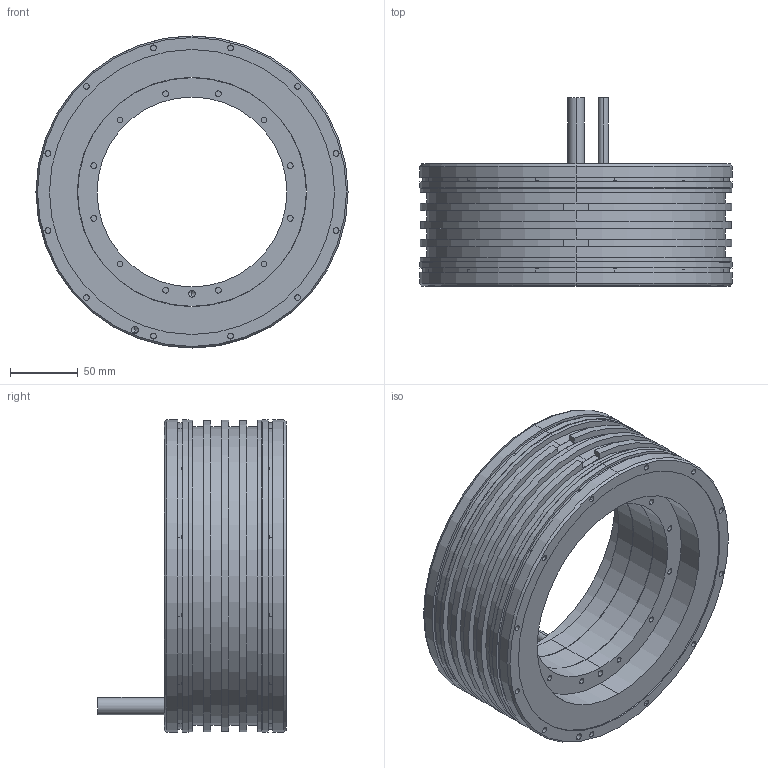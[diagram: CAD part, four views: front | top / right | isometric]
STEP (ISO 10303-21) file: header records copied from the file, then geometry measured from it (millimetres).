
FILE_DESCRIPTION (( 'STEP AP203' ), '1' );
FILE_NAME ('TM-2-45.STEP', '2020-10-20T05:44:14', ( '' ), ( '' ), 'SwSTEP 2.0', 'SolidWorks 2015', '' );
FILE_SCHEMA (( 'CONFIG_CONTROL_DESIGN' ));
Length unit declared in the file: millimetre
Products named in the file (3): TM-2-4X_stator_TM-2-45_stator; TM-2-45; TM-2-4X_rotor_TM-2-45_rotor
Assembly tree (2 placements, depth 2):
  TM-2-45
    TM-2-4X_stator_TM-2-45_stator
    TM-2-4X_rotor_TM-2-45_rotor
Bounding box: 230 x 139 x 230 mm (x, y, z)
Volume: 1916341.2 mm3; surface area: 256689.6 mm2
Topology: 2 solids, 2 shells, 246 faces, 514 edges, 328 vertices
Faces by surface type: cylinder 151, plane 79, cone 16
Entity records: 6925 total; most frequent: DIRECTION 1314, CARTESIAN_POINT 1085, ORIENTED_EDGE 1012, AXIS2_PLACEMENT_3D 557, EDGE_CURVE 506, VERTEX_POINT 328, EDGE_LOOP 314, CIRCLE 306
